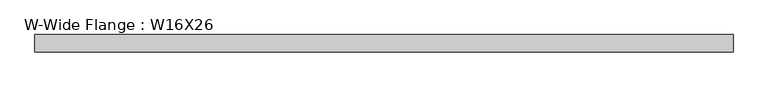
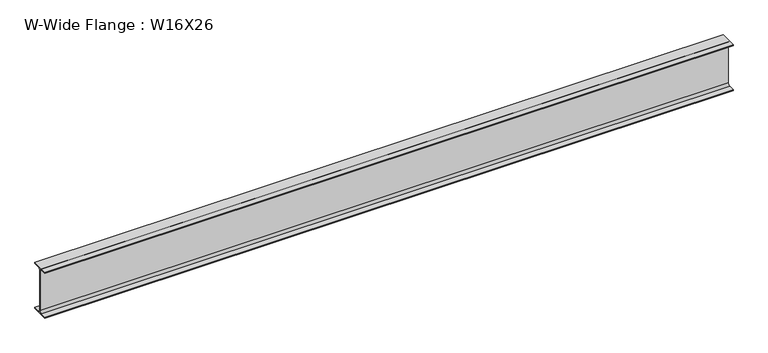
"""IFC4 building model written with IfcOpenShell, lengths in millimetres: beam geometry, W-Wide Flange : W16X26."""

import ifcopenshell
import ifcopenshell.guid

model = None  # the IFC model being written
_history = None  # IfcOwnerHistory: only IFC2X3 demands one
_inside = {}  # id of a spatial element -> (the spatial element, [elements in it])
_under = {}  # id of a project, library or spatial element -> (it, [spatial elements below it])
_declared = {}  # id of a project -> (the project, [libraries it declares])
_typed = {}  # id of a type object -> (the type object, [elements of that type])
_made_of = {}  # id of a material, layer set ... -> (it, [elements and type objects made of it])


def new_model(schema):
    """Start an empty IFC model of exactly this schema.

    Asked for "IFC4X3", IfcOpenShell would pick the latest addendum, in which some entities
    have other attributes; the version numbers below select the first issue.
    IFC2X3 requires an IfcOwnerHistory on every rooted entity: one is made here for all.
    """
    global model, _history
    if schema == "IFC4X3":
        model = ifcopenshell.file(schema_version=(4, 3, 0, 0))
    else:
        model = ifcopenshell.file(schema=schema)
    _inside.clear()
    _under.clear()
    _declared.clear()
    _typed.clear()
    _made_of.clear()
    _history = None
    if model.schema == "IFC2X3":
        org = make("IfcOrganization", Name="unknown")
        user = make(
            "IfcPersonAndOrganization",
            ThePerson=make("IfcPerson", FamilyName="unknown"),
            TheOrganization=org,
        )
        app = make(
            "IfcApplication",
            ApplicationDeveloper=org,
            Version="unknown",
            ApplicationFullName="unknown",
            ApplicationIdentifier="unknown",
        )
        _history = make(
            "IfcOwnerHistory",
            OwningUser=user,
            OwningApplication=app,
            ChangeAction="ADDED",
            CreationDate=0,
        )
    return model


def make(cls, **values):
    """One entity of the class cls with the attributes given. An attribute that is None is left unset."""
    return model.create_entity(
        cls, **{name: value for name, value in values.items() if value is not None}
    )


def rooted(cls, **values):
    """An entity with a GlobalId (a new one), such as an element, a storey or a relation."""
    return make(cls, GlobalId=ifcopenshell.guid.new(), OwnerHistory=_history, **values)


def si_unit(unit_type, name, prefix=None):
    """IfcSIUnit, for example si_unit("LENGTHUNIT", "METRE", prefix="MILLI")."""
    return make("IfcSIUnit", UnitType=unit_type, Prefix=prefix, Name=name)


def assignment(units):
    """IfcUnitAssignment: the units of a project."""
    return None if units is None else make("IfcUnitAssignment", Units=units)


def point(xyz):
    """IfcCartesianPoint."""
    return None if xyz is None else make("IfcCartesianPoint", Coordinates=xyz)


def direction(xyz):
    """IfcDirection."""
    return None if xyz is None else make("IfcDirection", DirectionRatios=xyz)


def frame(location, z_axis=None, x_axis=None):
    """IfcAxis2Placement3D, a coordinate frame: its origin and axes. An axis left out is left unset."""
    return make(
        "IfcAxis2Placement3D",
        Location=point(location),
        Axis=direction(z_axis),
        RefDirection=direction(x_axis),
    )


def frame_2d(location, x_axis=None):
    """IfcAxis2Placement2D, a coordinate frame in the plane: its origin and x axis."""
    return make(
        "IfcAxis2Placement2D", Location=point(location), RefDirection=direction(x_axis)
    )


def origin():
    """The frame at (0, 0, 0) with its axes left unset."""
    return frame((0.0, 0.0, 0.0))


def place(relative_to, where):
    """IfcLocalPlacement: puts the frame where relative to a parent placement (None: the world)."""
    return make(
        "IfcLocalPlacement", PlacementRelTo=relative_to, RelativePlacement=where
    )


def context(
    kind, dimensions, precision=None, world=None, true_north=None, identifier=None
):
    """IfcGeometricRepresentationContext, for example the 3D "Model" context."""
    return make(
        "IfcGeometricRepresentationContext",
        ContextIdentifier=identifier,
        ContextType=kind,
        CoordinateSpaceDimension=dimensions,
        Precision=precision,
        WorldCoordinateSystem=world,
        TrueNorth=true_north,
    )


def project(units=None, contexts=None):
    """IfcProject with its units and contexts."""
    return rooted(
        "IfcProject",
        Name="project",
        RepresentationContexts=contexts,
        UnitsInContext=assignment(units),
    )


def spatial(cls, under=None, at=None, **own):
    """A site, building, storey or space (cls), placed at a placement, below another one or the project."""
    s = rooted(cls, ObjectPlacement=at, **own)
    if under is not None:
        _under.setdefault(under.id(), (under, []))[1].append(s)
    return s


def polyline(points):
    """IfcPolyline through the points."""
    return make("IfcPolyline", Points=[point(p) for p in points])


def circle_curve(where, radius):
    """IfcCircle in the frame where."""
    return make("IfcCircle", Position=where, Radius=radius)


def trimmed(basis, trim1, trim2, sense, master):
    """IfcTrimmedCurve: the piece of a basis curve between two trims."""
    return make(
        "IfcTrimmedCurve",
        BasisCurve=basis,
        Trim1=trim1,
        Trim2=trim2,
        SenseAgreement=sense,
        MasterRepresentation=master,
    )


def segment(curve, same_sense, transition):
    """IfcCompositeCurveSegment."""
    return make(
        "IfcCompositeCurveSegment",
        Transition=transition,
        SameSense=same_sense,
        ParentCurve=curve,
    )


def composite_curve(segments, self_intersect=None):
    """IfcCompositeCurve: segments joined end to end."""
    return make("IfcCompositeCurve", Segments=segments, SelfIntersect=self_intersect)


def outline(outer, holes=None, kind="AREA"):
    """IfcArbitraryClosedProfileDef: a profile drawn as a closed curve; with holes, ...WithVoids."""
    if holes is None:
        return make("IfcArbitraryClosedProfileDef", ProfileType=kind, OuterCurve=outer)
    return make(
        "IfcArbitraryProfileDefWithVoids",
        ProfileType=kind,
        OuterCurve=outer,
        InnerCurves=holes,
    )


def extrude(swept, where, along, depth):
    """IfcExtrudedAreaSolid: the profile swept, set in the frame where, extruded along a direction by depth."""
    return make(
        "IfcExtrudedAreaSolid",
        SweptArea=swept,
        Position=where,
        ExtrudedDirection=direction(along),
        Depth=depth,
    )


def shape(context_of_items, identifier, shape_type, items):
    """IfcShapeRepresentation: the items that make up one representation, for example the "Body"."""
    return make(
        "IfcShapeRepresentation",
        ContextOfItems=context_of_items,
        RepresentationIdentifier=identifier,
        RepresentationType=shape_type,
        Items=items,
    )


def source(mapping_origin, context_of_items, identifier, shape_type, items):
    """IfcRepresentationMap: a shape defined once, which mapped items show again and again."""
    return make(
        "IfcRepresentationMap",
        MappingOrigin=mapping_origin,
        MappedRepresentation=shape(context_of_items, identifier, shape_type, items),
    )


def transform(
    local_origin,
    x_axis=None,
    y_axis=None,
    z_axis=None,
    scale=None,
    scale2=None,
    scale3=None,
    uniform=True,
):
    """IfcCartesianTransformationOperator3D, or its non-uniform kind. x_axis, y_axis, z_axis: its Axis1, 2, 3."""
    if uniform:
        return make(
            "IfcCartesianTransformationOperator3D",
            Axis1=direction(x_axis),
            Axis2=direction(y_axis),
            LocalOrigin=point(local_origin),
            Scale=scale,
            Axis3=direction(z_axis),
        )
    return make(
        "IfcCartesianTransformationOperator3DnonUniform",
        Axis1=direction(x_axis),
        Axis2=direction(y_axis),
        LocalOrigin=point(local_origin),
        Scale=scale,
        Axis3=direction(z_axis),
        Scale2=scale2,
        Scale3=scale3,
    )


def mapped(mapping_source, mapping_target):
    """IfcMappedItem: shows the shape of a source again, moved by a transform."""
    return make(
        "IfcMappedItem", MappingSource=mapping_source, MappingTarget=mapping_target
    )


def made_of(thing, what):
    """Note that an element or type object is made of a material, layer set ...; save() writes the relation."""
    if what is not None:
        _made_of.setdefault(what.id(), (what, []))[1].append(thing)
    return thing


def element(
    cls,
    number,
    at=None,
    inside=None,
    cuts=None,
    type_object=None,
    material=None,
    context=None,
    identifier="Body",
    shape_type=None,
    held_by="IfcProductDefinitionShape",
    body=None,
    shapes=None,
    **own,
):
    """One element of the class cls, such as IfcWall. Its Tag is "e" and its number.

    at: its placement. inside: the storey or other place that contains it. cuts: it is an
    opening in that element (IfcRelVoidsElement). A single representation is given by context,
    identifier, shape_type and body (its items); several are given by shapes. held_by: the class
    of the entity that holds the representations. save() writes the other relations.
    """
    e = rooted(cls, Tag="e%d" % number, ObjectPlacement=at, **own)
    if body is not None:
        shapes = [shape(context, identifier, shape_type, body)]
    if shapes is not None:
        e.Representation = make(held_by, Representations=shapes)
    if inside is not None:
        _inside.setdefault(inside.id(), (inside, []))[1].append(e)
    if cuts is not None:
        rooted(
            "IfcRelVoidsElement", RelatingBuildingElement=cuts, RelatedOpeningElement=e
        )
    if type_object is not None:
        _typed.setdefault(type_object.id(), (type_object, []))[1].append(e)
    return made_of(e, material)


def aggregate(whole, parts):
    """IfcRelAggregates: a whole, such as a stair, and the parts it consists of."""
    return rooted("IfcRelAggregates", RelatingObject=whole, RelatedObjects=parts)


def save(model, path):
    """Write the relations noted so far, then the file.

    IfcRelAggregates (storeys below a building ...), IfcRelContainedInSpatialStructure (elements
    in a storey), IfcRelDefinesByType, IfcRelAssociatesMaterial and IfcRelDeclares: one each for
    every whole, place, type object, material and project.
    """
    for whole, parts in _under.values():
        aggregate(whole, parts)
    for where, things in _inside.values():
        rooted(
            "IfcRelContainedInSpatialStructure",
            RelatedElements=things,
            RelatingStructure=where,
        )
    for kind, things in _typed.values():
        rooted("IfcRelDefinesByType", RelatedObjects=things, RelatingType=kind)
    for what, things in _made_of.values():
        rooted("IfcRelAssociatesMaterial", RelatedObjects=things, RelatingMaterial=what)
    for by, libraries in _declared.values():
        rooted("IfcRelDeclares", RelatingContext=by, RelatedDefinitions=libraries)
    model.write(path)


def w_wide_flange_w16x26_b3b18c45(model_context):
    return source(origin(), model_context, "Body", "SweptSolid", [
        extrude(outline(composite_curve([segment(polyline([(69.85, -190.627), (69.85, -199.39), (-69.85, -199.39), (-69.85, -190.627), (-21.3995, -190.627)]), True, "CONTINUOUS"), segment(trimmed(circle_curve(frame_2d((-21.3995, -172.4025)), 18.2245), [point((-21.3995, -190.627))], [point((-3.175, -172.4025))], True, "CARTESIAN"), True, "CONTINUOUS"), segment(polyline([(-3.175, -172.4025), (-3.175, 172.4025)]), True, "CONTINUOUS"), segment(trimmed(circle_curve(frame_2d((-21.3995, 172.4025)), 18.2245), [point((-3.175, 172.4025))], [point((-21.3995, 190.627))], True, "CARTESIAN"), True, "CONTINUOUS"), segment(polyline([(-21.3995, 190.627), (-69.85, 190.627), (-69.85, 199.39), (69.85, 199.39), (69.85, 190.627), (21.3995, 190.627)]), True, "CONTINUOUS"), segment(trimmed(circle_curve(frame_2d((21.3995, 172.4025)), 18.2245), [point((21.3995, 190.627))], [point((3.175, 172.4025))], True, "CARTESIAN"), True, "CONTINUOUS"), segment(polyline([(3.175, 172.4025), (3.175, -172.4025)]), True, "CONTINUOUS"), segment(trimmed(circle_curve(frame_2d((21.3995, -172.4025)), 18.2245), [point((3.175, -172.4025))], [point((21.3995, -190.627))], True, "CARTESIAN"), True, "CONTINUOUS"), segment(polyline([(21.3995, -190.627), (69.85, -190.627)]), True, "CONTINUOUS")], self_intersect=False)), frame((-2825.5463652, 0.0, 0.0), z_axis=(1.0, 0.0, 0.0), x_axis=(0.0, 1.0, 0.0)), (0.0, 0.0, 1.0), 5651.5),
    ])


if __name__ == "__main__":
    model = new_model("IFC4")
    model_context = context("Model", 3, world=origin())
    ifc_project = project(units=[si_unit("LENGTHUNIT", "METRE", prefix="MILLI")], contexts=[model_context])
    site = spatial("IfcSite", under=ifc_project)
    building = spatial("IfcBuilding", under=site)
    placement = place(None, origin())
    w_wide_flange_w16x26_shape = w_wide_flange_w16x26_b3b18c45(model_context)
    element("IfcBeam", 1, ObjectType="W-Wide Flange : W16X26", at=placement, inside=building, context=model_context, shape_type="MappedRepresentation", body=[
        mapped(w_wide_flange_w16x26_shape, transform((0.0, 0.0, 0.0), x_axis=(1.0, 0.0, 0.0), y_axis=(0.0, 1.0, 0.0), z_axis=(0.0, 0.0, 1.0))),
    ])
    save(model, "model.ifc")
